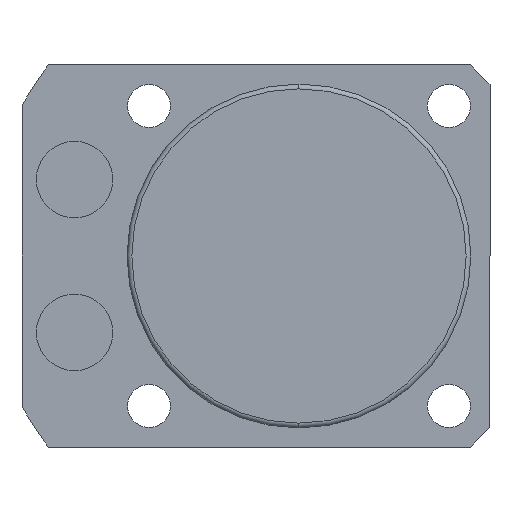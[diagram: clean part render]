
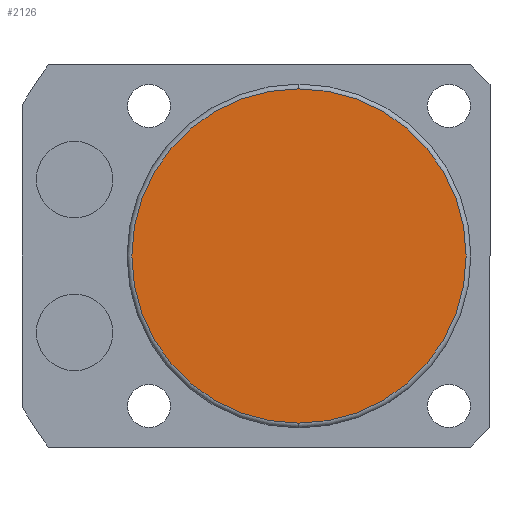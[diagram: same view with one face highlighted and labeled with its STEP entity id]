
A CAD part, front view. The second image highlights one B-rep face of the part: STEP entity #2126.
In plain terms, the highlighted planar face has unit normal (0, -1, 0).
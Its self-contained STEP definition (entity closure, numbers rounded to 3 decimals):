
#128 = FACE_OUTER_BOUND ( 'NONE', #1792, .T. ) ;
#182 = AXIS2_PLACEMENT_3D ( 'NONE', #2170, #1129, #864 ) ;
#299 = CARTESIAN_POINT ( 'NONE',  ( 0., -45.5, 17.5 ) ) ;
#305 = DIRECTION ( 'NONE',  ( 0., 0., -1. ) ) ;
#309 = AXIS2_PLACEMENT_3D ( 'NONE', #1845, #1010, #1000 ) ;
#401 = VERTEX_POINT ( 'NONE', #299 ) ;
#489 = EDGE_CURVE ( 'NONE', #546, #401, #2452, .T. ) ;
#546 = VERTEX_POINT ( 'NONE', #1760 ) ;
#757 = CARTESIAN_POINT ( 'NONE',  ( 0., -45.5, 0. ) ) ;
#833 = AXIS2_PLACEMENT_3D ( 'NONE', #757, #1571, #305 ) ;
#864 = DIRECTION ( 'NONE',  ( 0., 0., -1. ) ) ;
#922 = ORIENTED_EDGE ( 'NONE', *, *, #489, .T. ) ;
#1000 = DIRECTION ( 'NONE',  ( 0., 0., -1. ) ) ;
#1010 = DIRECTION ( 'NONE',  ( 0., -1., 0. ) ) ;
#1129 = DIRECTION ( 'NONE',  ( 0., -1., 0. ) ) ;
#1188 = CIRCLE ( 'NONE', #309, 17.5 ) ;
#1332 = ORIENTED_EDGE ( 'NONE', *, *, #1804, .T. ) ;
#1571 = DIRECTION ( 'NONE',  ( 0., -1., 0. ) ) ;
#1760 = CARTESIAN_POINT ( 'NONE',  ( 0., -45.5, -17.5 ) ) ;
#1792 = EDGE_LOOP ( 'NONE', ( #922, #1332 ) ) ;
#1804 = EDGE_CURVE ( 'NONE', #401, #546, #1188, .T. ) ;
#1845 = CARTESIAN_POINT ( 'NONE',  ( 0., -45.5, 0. ) ) ;
#2117 = PLANE ( 'NONE',  #182 ) ;
#2126 = ADVANCED_FACE ( 'NONE', ( #128 ), #2117, .T. ) ;
#2170 = CARTESIAN_POINT ( 'NONE',  ( 0., -45.5, 0. ) ) ;
#2452 = CIRCLE ( 'NONE', #833, 17.5 ) ;
